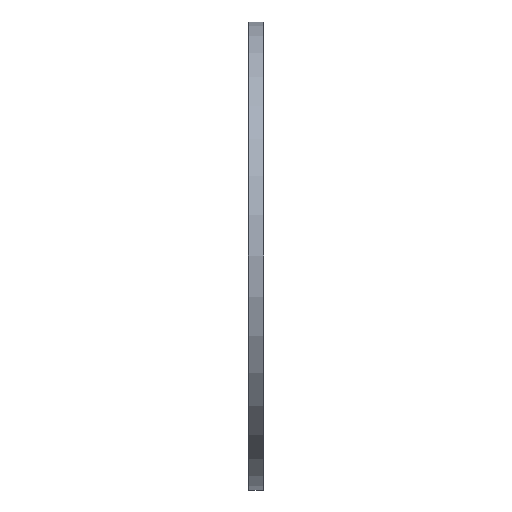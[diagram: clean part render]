
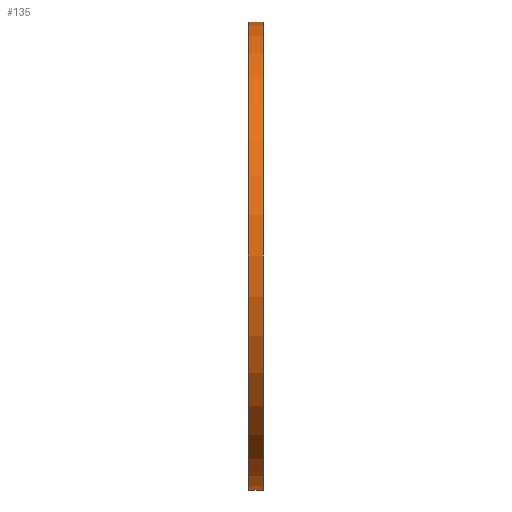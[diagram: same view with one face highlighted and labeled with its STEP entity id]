
A CAD part, left-side view. The second image highlights one B-rep face of the part: STEP entity #135.
In plain terms, the highlighted cylindrical face has radius 187 mm (diameter 374 mm), a partial arc.
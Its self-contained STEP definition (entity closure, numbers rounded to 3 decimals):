
#135=ADVANCED_FACE('',(#278),#279,.T.);
#278=FACE_OUTER_BOUND('',#482,.T.);
#279=CYLINDRICAL_SURFACE('',#483,187.0);
#482=EDGE_LOOP('',(#986,#987,#988,#989));
#483=AXIS2_PLACEMENT_3D('',#990,#991,#992);
#986=ORIENTED_EDGE('',*,*,#1213,.T.);
#987=ORIENTED_EDGE('',*,*,#1368,.F.);
#988=ORIENTED_EDGE('',*,*,#1215,.T.);
#989=ORIENTED_EDGE('',*,*,#1366,.T.);
#990=CARTESIAN_POINT('',(0.0,0.0,0.0));
#991=DIRECTION('',(0.0,-1.0,0.0));
#992=DIRECTION('',(0.0,0.0,1.0));
#1213=EDGE_CURVE('',#1423,#1420,#1424,.T.);
#1215=EDGE_CURVE('',#1416,#1425,#1427,.T.);
#1366=EDGE_CURVE('',#1425,#1423,#1676,.T.);
#1368=EDGE_CURVE('',#1416,#1420,#1678,.T.);
#1416=VERTEX_POINT('',#1734);
#1420=VERTEX_POINT('',#1739);
#1423=VERTEX_POINT('',#1743);
#1424=LINE('',#1744,#1745);
#1425=VERTEX_POINT('',#1746);
#1427=LINE('',#1748,#1749);
#1676=CIRCLE('',#2048,187.0);
#1678=CIRCLE('',#2050,187.0);
#1734=CARTESIAN_POINT('',(0.,1.925,-187.0));
#1739=CARTESIAN_POINT('',(0.,1.925,187.0));
#1743=CARTESIAN_POINT('',(0.0,-9.325,187.0));
#1744=CARTESIAN_POINT('',(0.,0.0,187.0));
#1745=VECTOR('',#2113,1.0);
#1746=CARTESIAN_POINT('',(0.,-9.325,-187.0));
#1748=CARTESIAN_POINT('',(0.,0.0,-187.0));
#1749=VECTOR('',#2117,1.0);
#2048=AXIS2_PLACEMENT_3D('',#2468,#2469,#2470);
#2050=AXIS2_PLACEMENT_3D('',#2474,#2475,#2476);
#2113=DIRECTION('',(-0.0,1.0,-0.0));
#2117=DIRECTION('',(0.0,-1.0,0.0));
#2468=CARTESIAN_POINT('',(0.0,-9.325,0.0));
#2469=DIRECTION('',(-0.0,1.0,0.0));
#2470=DIRECTION('',(0.0,0.0,1.0));
#2474=CARTESIAN_POINT('',(0.0,1.925,0.0));
#2475=DIRECTION('',(-0.0,1.0,0.0));
#2476=DIRECTION('',(0.0,0.0,1.0));
